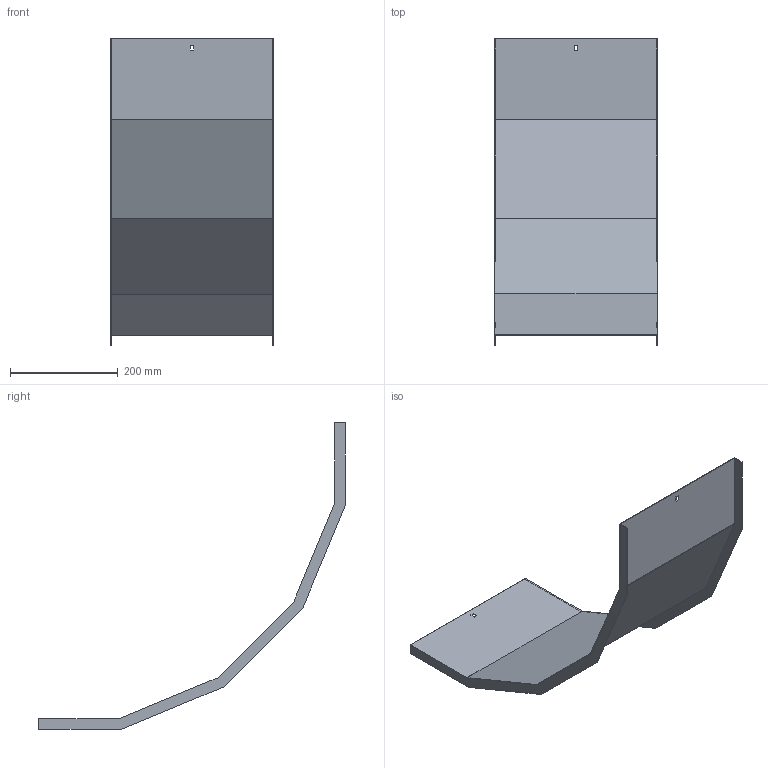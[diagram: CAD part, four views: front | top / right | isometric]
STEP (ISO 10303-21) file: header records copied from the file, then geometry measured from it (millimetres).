
FILE_DESCRIPTION (( 'STEP AP214' ), '1' );
FILE_NAME ('B2X30N5R300X.step', '2025-03-20T09:47:31', ( '' ), ( '' ), 'SwSTEP 2.0', 'SolidWorks 2023', '' );
FILE_SCHEMA (( 'AUTOMOTIVE_DESIGN' ));
Length unit declared in the file: millimetre
Products named in the file (1): B2X30N5R300X
Bounding box: 303 x 569.92 x 569.92 mm (x, y, z)
Volume: 458123.3 mm3; surface area: 614723.1 mm2
Topology: 1 solids, 1 shells, 34 faces, 96 edges, 64 vertices
Faces by surface type: plane 34
Entity records: 1111 total; most frequent: CARTESIAN_POINT 195, ORIENTED_EDGE 192, DIRECTION 166, LINE 96, EDGE_CURVE 96, VECTOR 96, VERTEX_POINT 64, EDGE_LOOP 38
